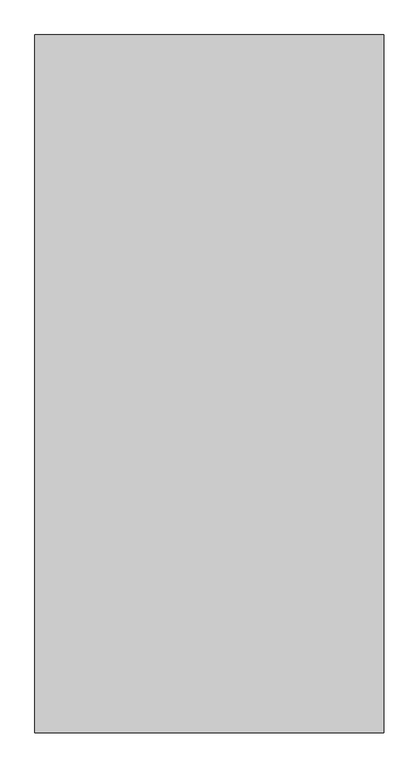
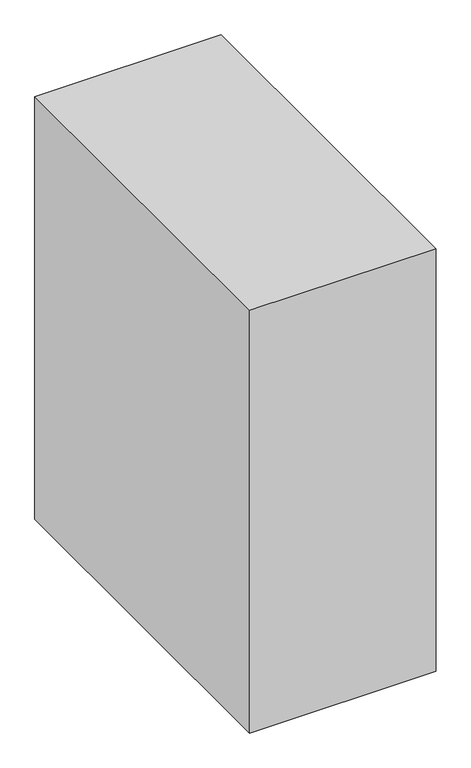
"""IFC4 building model written with IfcOpenShell, lengths in millimetres: member geometry, Импост круглого сечения : Радиус 25 мм 2."""

from ifc_helpers import new_model, si_unit, frame, origin, place, context, project, spatial, polyline, outline, extrude, source, transform, mapped, element, save


def member_2a5ef969(model_context):
    return source(origin(), model_context, "Body", "SweptSolid", [
        extrude(outline(polyline([(250.0, 500.0), (250.0, -500.0), (-250.0, -500.0), (-250.0, 500.0), (250.0, 500.0)])), frame((0.0, 0.0, -1200.0), z_axis=(0.0, 0.0, 1.0), x_axis=(1.0, 0.0, 0.0)), (0.0, 0.0, 1.0), 1200.0),
    ])


if __name__ == "__main__":
    model = new_model("IFC4")
    model_context = context("Model", 3, world=origin())
    ifc_project = project(units=[si_unit("LENGTHUNIT", "METRE", prefix="MILLI")], contexts=[model_context])
    site = spatial("IfcSite", under=ifc_project)
    building = spatial("IfcBuilding", under=site)
    placement = place(None, origin())
    member_shape = member_2a5ef969(model_context)
    element("IfcMember", 1, ObjectType="Импост круглого сечения : Радиус 25 мм 2", at=placement, inside=building, context=model_context, shape_type="MappedRepresentation", body=[
        mapped(member_shape, transform((0.0, 0.0, 0.0), x_axis=(1.0, 0.0, 0.0), y_axis=(0.0, 1.0, 0.0), z_axis=(0.0, 0.0, 1.0))),
    ])
    save(model, "model.ifc")
